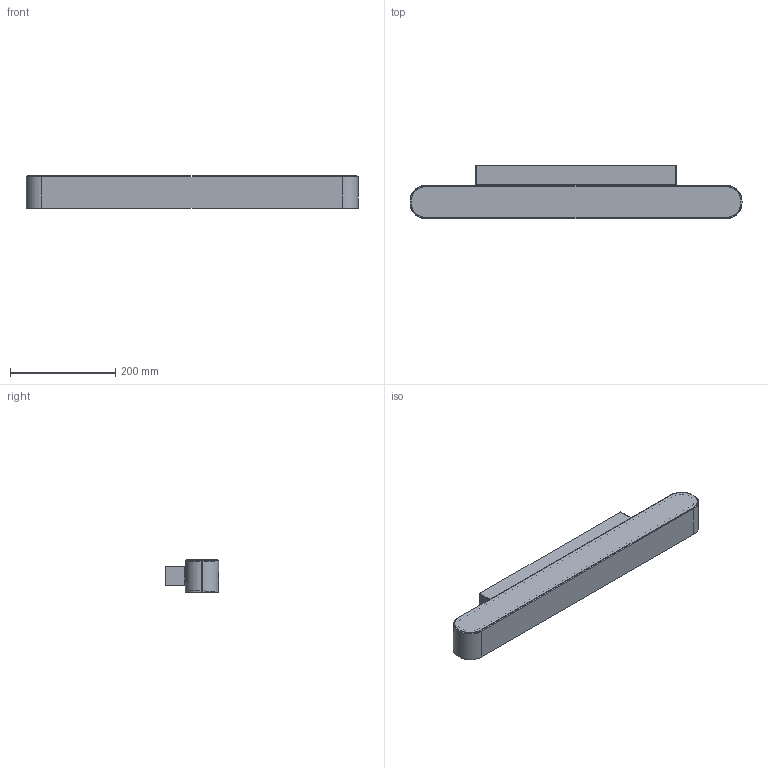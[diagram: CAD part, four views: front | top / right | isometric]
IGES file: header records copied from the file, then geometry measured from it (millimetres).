
Start section: SolidWorks IGES file using NURBS representation for surfaces
Global section: file name: Z:\Modele 3D_WWW\_KOLEKCJE_WWW\SOFT-LED\SOFT-WALL-LED-60X6-7541-7528\SOFT-WALL-LED-60X6-7541-7528.IGS; native system: SolidWorks 2021; preprocessor: SolidWorks 2021; author: gabriela.tworek; date: 211117.103031; units: millimetre
Bounding box: 630 x 101.14 x 61.68 mm (x, y, z)
Surface area: 469178.5 mm2 (no closed solid volume)
Topology: 0 solids, 0 shells, 84 faces, 1280 edges, 1276 vertices
Faces by surface type: bspline 84
